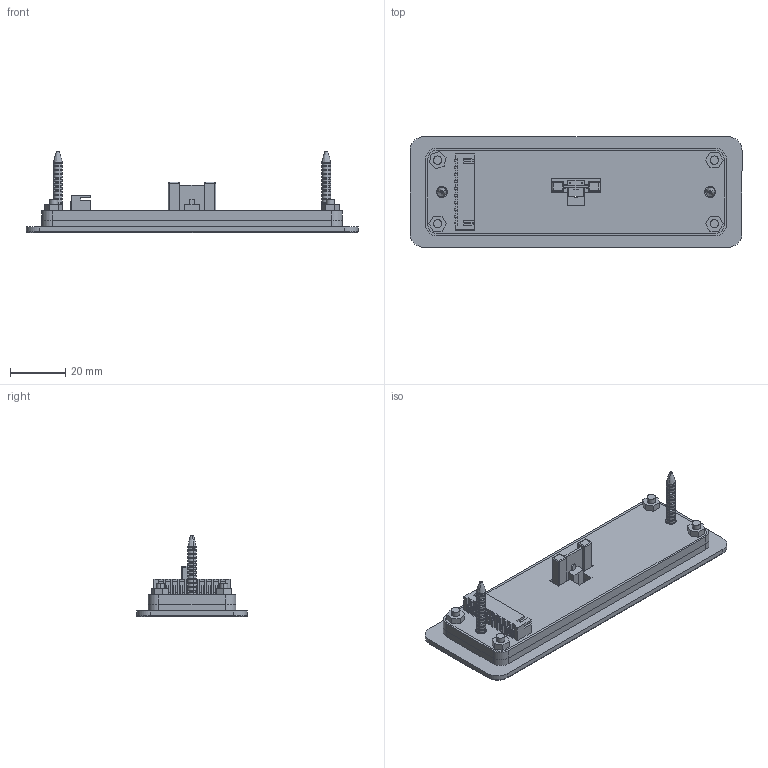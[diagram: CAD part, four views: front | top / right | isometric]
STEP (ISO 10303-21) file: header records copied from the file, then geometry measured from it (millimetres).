
FILE_DESCRIPTION (( 'STEP AP203' ), '1' );
FILE_NAME ('3D_TFH15P.STEP', '2017-06-03T02:10:33', ( '' ), ( '' ), 'SwSTEP 2.0', 'SolidWorks 2015', '' );
FILE_SCHEMA (( 'CONFIG_CONTROL_DESIGN' ));
Length unit declared in the file: millimetre
Products named in the file (1): 3D_TFH15P
Bounding box: 120 x 40 x 29.5 mm (x, y, z)
Volume: 30048.5 mm3; surface area: 39187.2 mm2
Topology: 20 solids, 20 shells, 1432 faces, 3565 edges, 2302 vertices
Faces by surface type: plane 705, cylinder 401, cone 224, torus 86, sphere 12, bspline 4
Entity records: 43022 total; most frequent: CARTESIAN_POINT 8680, DIRECTION 7109, ORIENTED_EDGE 7090, EDGE_CURVE 3545, AXIS2_PLACEMENT_3D 2591, VERTEX_POINT 2294, LINE 1927, VECTOR 1927
